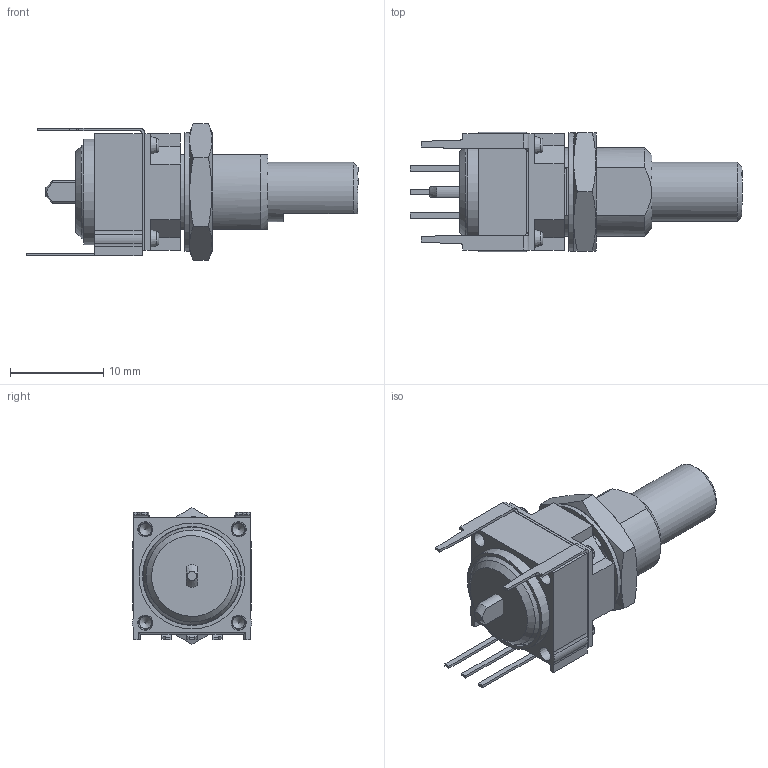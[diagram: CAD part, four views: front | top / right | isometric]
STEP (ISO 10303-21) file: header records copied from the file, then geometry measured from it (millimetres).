
FILE_DESCRIPTION(/* description */ (''),/* implementation_level */ '2;1');
FILE_NAME(/* name */ 'P11S1F0GHFW10103KA',/* time_stamp */ '2021-03-30T18:37:36+02:00',/* author */ ('MEB'),/* organization */ ('VISHAY '),/* preprocessor_version */ 'ST-DEVELOPER v16.7',/* originating_system */ 'DEX',/* authorisation */ $);
FILE_SCHEMA (('AUTOMOTIVE_DESIGN {1 0 10303 214 3 1 1}'));
Length unit declared in the file: millimetre
Products named in the file (10): P11S1F0GHFW10103KA; 3664192; 3653060; M1-W10-103_oa_0; 3656183; sortie ci us 2.54 tordue; 3650540; 3650810W; HD101-03; 0683952
Assembly tree (9 placements, depth 3):
  P11S1F0GHFW10103KA
    3664192
    3653060
    M1-W10-103_oa_0
      3656183
      sortie ci us 2.54 tordue
    3650540
    3650810W
    HD101-03
    0683952
Bounding box: 35.59 x 12.79 x 14.66 mm (x, y, z)
Volume: 1956.8 mm3; surface area: 3495.6 mm2
Topology: 10 solids, 10 shells, 592 faces, 1626 edges, 1069 vertices
Faces by surface type: plane 344, cylinder 122, bspline 76, cone 40, torus 10
Full cylindrical faces by diameter (mm): 1.3 x4, 1.5 x8, 1.55 x8, 3.4 x1, 3.97 x1, 4 x1, 4.1 x1, 5.25 x1, 5.9 x1, 6.35 x2, 6.4 x1, 7.42 x1, 7.44 x1, 8.4 x1, 8.666 x1, 9.65 x1, 10.6 x1, 10.8 x1, 11.35 x1, 12.7 x1
Entity records: 19947 total; most frequent: CARTESIAN_POINT 4930, ORIENTED_EDGE 3030, DIRECTION 2699, EDGE_CURVE 1515, VERTEX_POINT 1033, LINE 935, VECTOR 935, AXIS2_PLACEMENT_3D 882
